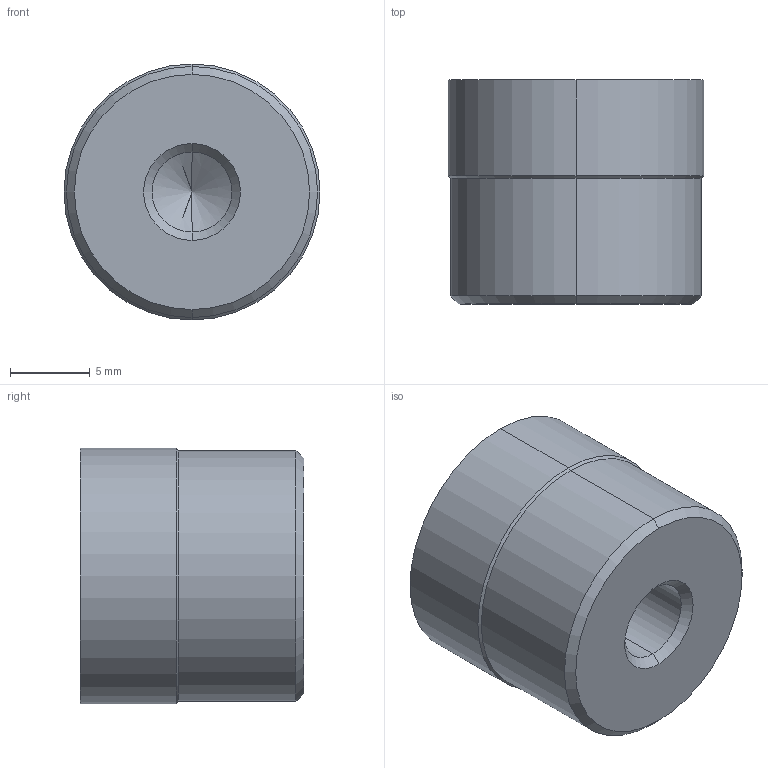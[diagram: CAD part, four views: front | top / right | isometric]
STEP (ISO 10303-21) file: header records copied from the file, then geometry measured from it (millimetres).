
FILE_DESCRIPTION (( 'STEP AP203' ), '1' );
FILE_NAME ('IR-16 PS.STEP', '2017-09-11T14:30:37', ( 'Balzi' ), ( '' ), 'SwSTEP 2.0', 'SolidWorks 2017', '' );
FILE_SCHEMA (( 'CONFIG_CONTROL_DESIGN' ));
Length unit declared in the file: millimetre
Products named in the file (1): IR-16 PS
Bounding box: 16 x 14 x 16 mm (x, y, z)
Volume: 2522.9 mm3; surface area: 1270.7 mm2
Topology: 1 solids, 1 shells, 258 faces, 728 edges, 481 vertices
Faces by surface type: plane 230, cylinder 20, cone 8
Entity records: 8259 total; most frequent: CARTESIAN_POINT 1466, ORIENTED_EDGE 1452, DIRECTION 1288, EDGE_CURVE 726, VECTOR 682, LINE 682, VERTEX_POINT 481, AXIS2_PLACEMENT_3D 303
